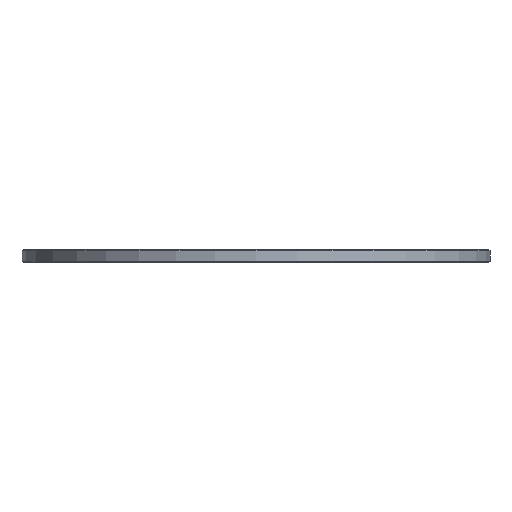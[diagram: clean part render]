
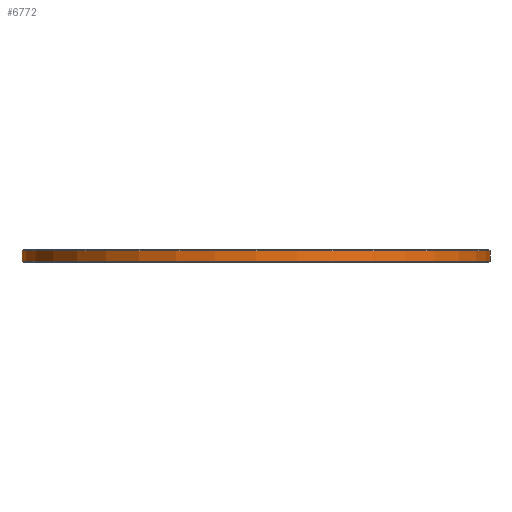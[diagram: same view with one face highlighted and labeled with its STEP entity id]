
A CAD part, front view. The second image highlights one B-rep face of the part: STEP entity #6772.
In plain terms, the highlighted cylindrical face has radius 57.812 mm (diameter 115.625 mm), a full revolution.
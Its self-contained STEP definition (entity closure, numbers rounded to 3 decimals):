
#89=CYLINDRICAL_SURFACE('',#7222,57.813);
#687=FACE_OUTER_BOUND('',#1098,.T.);
#1098=EDGE_LOOP('',(#6211,#6212,#6213,#6214));
#1226=CIRCLE('',#7221,57.813);
#1227=CIRCLE('',#7223,57.813);
#2049=LINE('',#10834,#2888);
#2888=VECTOR('',#8872,57.813);
#3512=VERTEX_POINT('',#10828);
#3513=VERTEX_POINT('',#10832);
#4416=EDGE_CURVE('',#3512,#3512,#1226,.T.);
#4418=EDGE_CURVE('',#3513,#3513,#1227,.T.);
#4419=EDGE_CURVE('',#3513,#3512,#2049,.T.);
#6211=ORIENTED_EDGE('',*,*,#4418,.F.);
#6212=ORIENTED_EDGE('',*,*,#4419,.T.);
#6213=ORIENTED_EDGE('',*,*,#4416,.F.);
#6214=ORIENTED_EDGE('',*,*,#4419,.F.);
#6772=ADVANCED_FACE('',(#687),#89,.T.);
#7221=AXIS2_PLACEMENT_3D('',#10829,#8865,#8866);
#7222=AXIS2_PLACEMENT_3D('',#10831,#8868,#8869);
#7223=AXIS2_PLACEMENT_3D('',#10833,#8870,#8871);
#8865=DIRECTION('center_axis',(0.,0.,-1.));
#8866=DIRECTION('ref_axis',(1.,0.,0.));
#8868=DIRECTION('center_axis',(0.,0.,1.));
#8869=DIRECTION('ref_axis',(1.,0.,0.));
#8870=DIRECTION('center_axis',(0.,0.,1.));
#8871=DIRECTION('ref_axis',(1.,0.,0.));
#8872=DIRECTION('',(0.,0.,-1.));
#10828=CARTESIAN_POINT('',(-57.813,0.,0.3));
#10829=CARTESIAN_POINT('Origin',(0.,0.,0.3));
#10831=CARTESIAN_POINT('Origin',(0.,0.,0.));
#10832=CARTESIAN_POINT('',(-57.813,0.,2.825));
#10833=CARTESIAN_POINT('Origin',(0.,0.,2.825));
#10834=CARTESIAN_POINT('',(-57.813,0.,0.));
